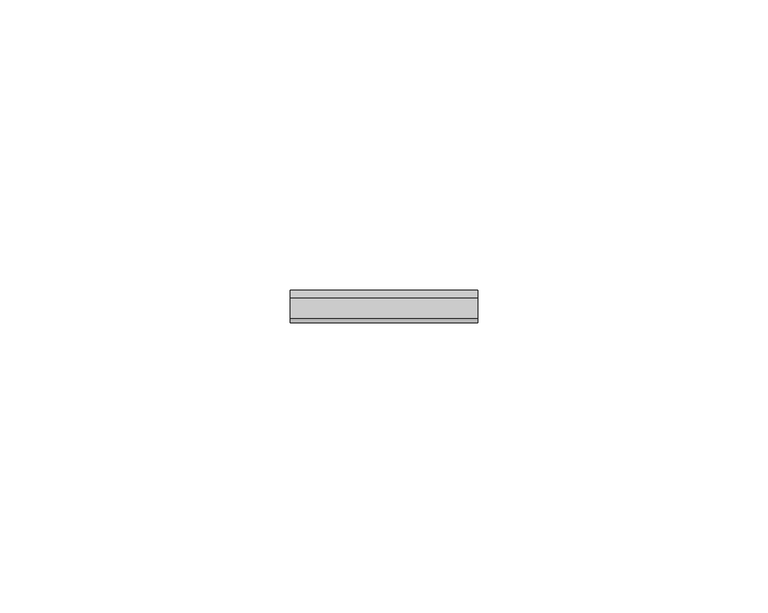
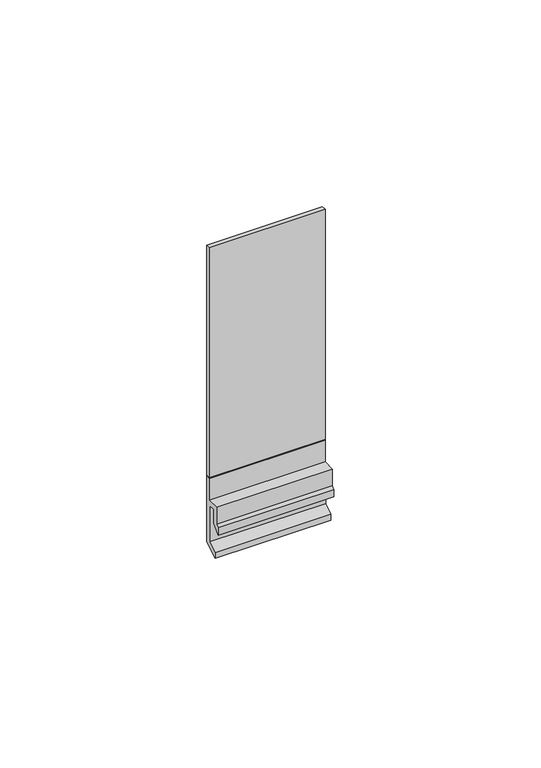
"""IFC4 building model written with IfcOpenShell, lengths in millimetres: plate geometry, FastPlank_P47V-V-Notch-Soffit-Plank : P47V-V-Notch-Soffit-Plank."""

import ifcopenshell
import ifcopenshell.guid

model = None  # the IFC model being written
_history = None  # IfcOwnerHistory: only IFC2X3 demands one
_inside = {}  # id of a spatial element -> (the spatial element, [elements in it])
_under = {}  # id of a project, library or spatial element -> (it, [spatial elements below it])
_declared = {}  # id of a project -> (the project, [libraries it declares])
_typed = {}  # id of a type object -> (the type object, [elements of that type])
_made_of = {}  # id of a material, layer set ... -> (it, [elements and type objects made of it])


def new_model(schema):
    """Start an empty IFC model of exactly this schema.

    Asked for "IFC4X3", IfcOpenShell would pick the latest addendum, in which some entities
    have other attributes; the version numbers below select the first issue.
    IFC2X3 requires an IfcOwnerHistory on every rooted entity: one is made here for all.
    """
    global model, _history
    if schema == "IFC4X3":
        model = ifcopenshell.file(schema_version=(4, 3, 0, 0))
    else:
        model = ifcopenshell.file(schema=schema)
    _inside.clear()
    _under.clear()
    _declared.clear()
    _typed.clear()
    _made_of.clear()
    _history = None
    if model.schema == "IFC2X3":
        org = make("IfcOrganization", Name="unknown")
        user = make(
            "IfcPersonAndOrganization",
            ThePerson=make("IfcPerson", FamilyName="unknown"),
            TheOrganization=org,
        )
        app = make(
            "IfcApplication",
            ApplicationDeveloper=org,
            Version="unknown",
            ApplicationFullName="unknown",
            ApplicationIdentifier="unknown",
        )
        _history = make(
            "IfcOwnerHistory",
            OwningUser=user,
            OwningApplication=app,
            ChangeAction="ADDED",
            CreationDate=0,
        )
    return model


def make(cls, **values):
    """One entity of the class cls with the attributes given. An attribute that is None is left unset."""
    return model.create_entity(
        cls, **{name: value for name, value in values.items() if value is not None}
    )


def rooted(cls, **values):
    """An entity with a GlobalId (a new one), such as an element, a storey or a relation."""
    return make(cls, GlobalId=ifcopenshell.guid.new(), OwnerHistory=_history, **values)


def si_unit(unit_type, name, prefix=None):
    """IfcSIUnit, for example si_unit("LENGTHUNIT", "METRE", prefix="MILLI")."""
    return make("IfcSIUnit", UnitType=unit_type, Prefix=prefix, Name=name)


def assignment(units):
    """IfcUnitAssignment: the units of a project."""
    return None if units is None else make("IfcUnitAssignment", Units=units)


def point(xyz):
    """IfcCartesianPoint."""
    return None if xyz is None else make("IfcCartesianPoint", Coordinates=xyz)


def direction(xyz):
    """IfcDirection."""
    return None if xyz is None else make("IfcDirection", DirectionRatios=xyz)


def frame(location, z_axis=None, x_axis=None):
    """IfcAxis2Placement3D, a coordinate frame: its origin and axes. An axis left out is left unset."""
    return make(
        "IfcAxis2Placement3D",
        Location=point(location),
        Axis=direction(z_axis),
        RefDirection=direction(x_axis),
    )


def origin():
    """The frame at (0, 0, 0) with its axes left unset."""
    return frame((0.0, 0.0, 0.0))


def place(relative_to, where):
    """IfcLocalPlacement: puts the frame where relative to a parent placement (None: the world)."""
    return make(
        "IfcLocalPlacement", PlacementRelTo=relative_to, RelativePlacement=where
    )


def context(
    kind, dimensions, precision=None, world=None, true_north=None, identifier=None
):
    """IfcGeometricRepresentationContext, for example the 3D "Model" context."""
    return make(
        "IfcGeometricRepresentationContext",
        ContextIdentifier=identifier,
        ContextType=kind,
        CoordinateSpaceDimension=dimensions,
        Precision=precision,
        WorldCoordinateSystem=world,
        TrueNorth=true_north,
    )


def project(units=None, contexts=None):
    """IfcProject with its units and contexts."""
    return rooted(
        "IfcProject",
        Name="project",
        RepresentationContexts=contexts,
        UnitsInContext=assignment(units),
    )


def spatial(cls, under=None, at=None, **own):
    """A site, building, storey or space (cls), placed at a placement, below another one or the project."""
    s = rooted(cls, ObjectPlacement=at, **own)
    if under is not None:
        _under.setdefault(under.id(), (under, []))[1].append(s)
    return s


def polyline(points):
    """IfcPolyline through the points."""
    return make("IfcPolyline", Points=[point(p) for p in points])


def outline(outer, holes=None, kind="AREA"):
    """IfcArbitraryClosedProfileDef: a profile drawn as a closed curve; with holes, ...WithVoids."""
    if holes is None:
        return make("IfcArbitraryClosedProfileDef", ProfileType=kind, OuterCurve=outer)
    return make(
        "IfcArbitraryProfileDefWithVoids",
        ProfileType=kind,
        OuterCurve=outer,
        InnerCurves=holes,
    )


def extrude(swept, where, along, depth):
    """IfcExtrudedAreaSolid: the profile swept, set in the frame where, extruded along a direction by depth."""
    return make(
        "IfcExtrudedAreaSolid",
        SweptArea=swept,
        Position=where,
        ExtrudedDirection=direction(along),
        Depth=depth,
    )


def shape(context_of_items, identifier, shape_type, items):
    """IfcShapeRepresentation: the items that make up one representation, for example the "Body"."""
    return make(
        "IfcShapeRepresentation",
        ContextOfItems=context_of_items,
        RepresentationIdentifier=identifier,
        RepresentationType=shape_type,
        Items=items,
    )


def source(mapping_origin, context_of_items, identifier, shape_type, items):
    """IfcRepresentationMap: a shape defined once, which mapped items show again and again."""
    return make(
        "IfcRepresentationMap",
        MappingOrigin=mapping_origin,
        MappedRepresentation=shape(context_of_items, identifier, shape_type, items),
    )


def transform(
    local_origin,
    x_axis=None,
    y_axis=None,
    z_axis=None,
    scale=None,
    scale2=None,
    scale3=None,
    uniform=True,
):
    """IfcCartesianTransformationOperator3D, or its non-uniform kind. x_axis, y_axis, z_axis: its Axis1, 2, 3."""
    if uniform:
        return make(
            "IfcCartesianTransformationOperator3D",
            Axis1=direction(x_axis),
            Axis2=direction(y_axis),
            LocalOrigin=point(local_origin),
            Scale=scale,
            Axis3=direction(z_axis),
        )
    return make(
        "IfcCartesianTransformationOperator3DnonUniform",
        Axis1=direction(x_axis),
        Axis2=direction(y_axis),
        LocalOrigin=point(local_origin),
        Scale=scale,
        Axis3=direction(z_axis),
        Scale2=scale2,
        Scale3=scale3,
    )


def mapped(mapping_source, mapping_target):
    """IfcMappedItem: shows the shape of a source again, moved by a transform."""
    return make(
        "IfcMappedItem", MappingSource=mapping_source, MappingTarget=mapping_target
    )


def made_of(thing, what):
    """Note that an element or type object is made of a material, layer set ...; save() writes the relation."""
    if what is not None:
        _made_of.setdefault(what.id(), (what, []))[1].append(thing)
    return thing


def element(
    cls,
    number,
    at=None,
    inside=None,
    cuts=None,
    type_object=None,
    material=None,
    context=None,
    identifier="Body",
    shape_type=None,
    held_by="IfcProductDefinitionShape",
    body=None,
    shapes=None,
    **own,
):
    """One element of the class cls, such as IfcWall. Its Tag is "e" and its number.

    at: its placement. inside: the storey or other place that contains it. cuts: it is an
    opening in that element (IfcRelVoidsElement). A single representation is given by context,
    identifier, shape_type and body (its items); several are given by shapes. held_by: the class
    of the entity that holds the representations. save() writes the other relations.
    """
    e = rooted(cls, Tag="e%d" % number, ObjectPlacement=at, **own)
    if body is not None:
        shapes = [shape(context, identifier, shape_type, body)]
    if shapes is not None:
        e.Representation = make(held_by, Representations=shapes)
    if inside is not None:
        _inside.setdefault(inside.id(), (inside, []))[1].append(e)
    if cuts is not None:
        rooted(
            "IfcRelVoidsElement", RelatingBuildingElement=cuts, RelatedOpeningElement=e
        )
    if type_object is not None:
        _typed.setdefault(type_object.id(), (type_object, []))[1].append(e)
    return made_of(e, material)


def aggregate(whole, parts):
    """IfcRelAggregates: a whole, such as a stair, and the parts it consists of."""
    return rooted("IfcRelAggregates", RelatingObject=whole, RelatedObjects=parts)


def save(model, path):
    """Write the relations noted so far, then the file.

    IfcRelAggregates (storeys below a building ...), IfcRelContainedInSpatialStructure (elements
    in a storey), IfcRelDefinesByType, IfcRelAssociatesMaterial and IfcRelDeclares: one each for
    every whole, place, type object, material and project.
    """
    for whole, parts in _under.values():
        aggregate(whole, parts)
    for where, things in _inside.values():
        rooted(
            "IfcRelContainedInSpatialStructure",
            RelatedElements=things,
            RelatingStructure=where,
        )
    for kind, things in _typed.values():
        rooted("IfcRelDefinesByType", RelatedObjects=things, RelatingType=kind)
    for what, things in _made_of.values():
        rooted("IfcRelAssociatesMaterial", RelatedObjects=things, RelatingMaterial=what)
    for by, libraries in _declared.values():
        rooted("IfcRelDeclares", RelatingContext=by, RelatedDefinitions=libraries)
    model.write(path)


def plate_b1f777b9(model_context):
    return source(origin(), model_context, "Body", "SweptSolid", [
        extrude(outline(polyline([(8.1392275, 2.3957023), (3.9892358, 0.0), (3.9892358, 1.7319938), (6.6392305, 3.2617795), (6.6392305, 13.9827581), (4.7892342, 13.9827581), (4.7892342, 9.9691576), (2.5809265, 7.7608499), (2.5809265, 9.8794005), (3.2892372, 10.5877112), (3.2892372, 15.4863039), (6.8392301, 15.4863039), (6.8392301, 21.8363039), (8.1392275, 21.8363039), (8.1392275, 2.3957023)])), frame((-16.1636899, 0.0, 0.0), z_axis=(1.0, 0.0, 0.0), x_axis=(0.0, 1.0, 0.0)), (0.0, 0.0, 1.0), 32.3273797),
        extrude(outline(polyline([(-16.1636899, 6.8392301), (-16.1636899, 8.1392275), (16.1636899, 8.1392275), (16.1636899, 6.8392301), (-16.1636899, 6.8392301)])), frame((0.0, 0.0, 21.8363039), z_axis=(0.0, 0.0, 1.0), x_axis=(1.0, 0.0, 0.0)), (0.0, 0.0, 1.0), 68.2115788),
    ])


if __name__ == "__main__":
    model = new_model("IFC4")
    model_context = context("Model", 3, world=origin())
    ifc_project = project(units=[si_unit("LENGTHUNIT", "METRE", prefix="MILLI")], contexts=[model_context])
    site = spatial("IfcSite", under=ifc_project)
    building = spatial("IfcBuilding", under=site)
    placement = place(None, origin())
    plate_shape = plate_b1f777b9(model_context)
    element("IfcPlate", 1, ObjectType="FastPlank_P47V-V-Notch-Soffit-Plank : P47V-V-Notch-Soffit-Plank", at=placement, inside=building, context=model_context, shape_type="MappedRepresentation", body=[
        mapped(plate_shape, transform((0.0, 0.0, 0.0), x_axis=(1.0, 0.0, 0.0), y_axis=(0.0, 1.0, 0.0), z_axis=(0.0, 0.0, 1.0))),
    ])
    save(model, "model.ifc")
